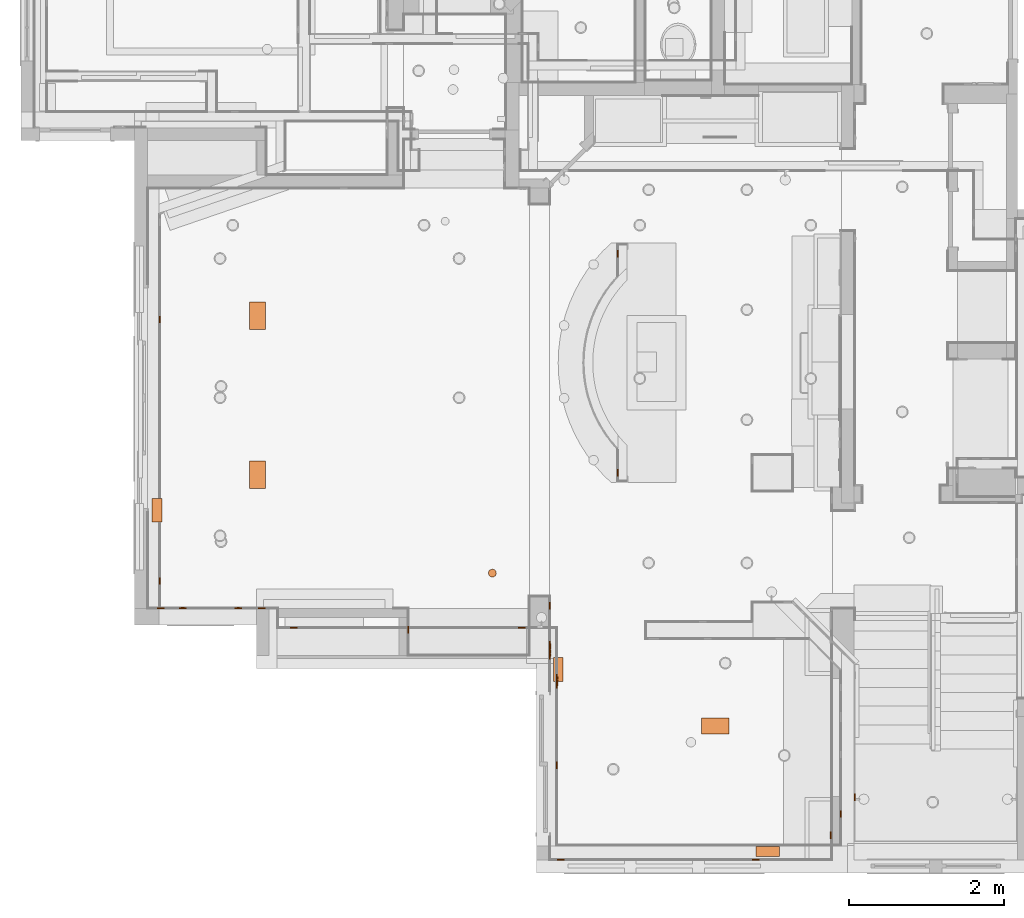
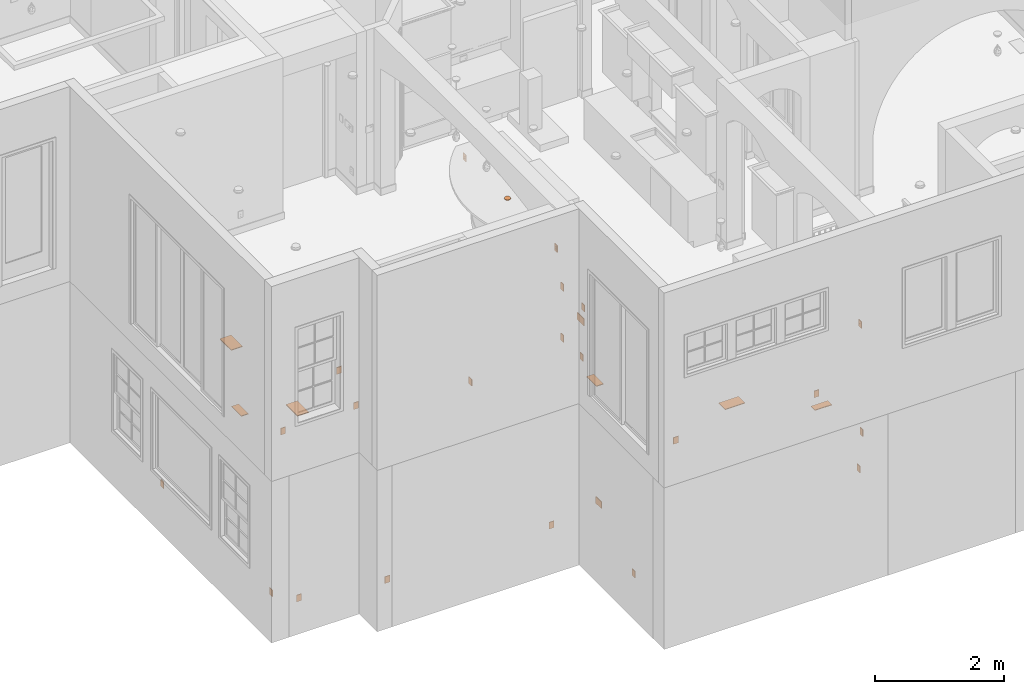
# One storey, part 63 of 81: 30 proxies.
"""IFC2X3 building model written with IfcOpenShell, lengths in feet."""

from ifc_helpers import new_model, entity, si_unit, converted_unit, derived_unit, direction, frame, frame_2d, origin, origin_2d_with_axis, place, context, subcontext, project, spatial, polyline, circle_curve, parameter, trimmed, segment, composite_curve, rectangle, circle, outline, extrude, source, transform, mapped, material, type_object, type_shapes, element, save


model = new_model("IFC2X3")

# Units and contexts
model_context = context("Model", 3, precision=0.0001, world=origin(), true_north=direction((6.12303176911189e-17, 1.0)))
body_context = subcontext(model_context, "Body", "Model", "MODEL_VIEW")
ifc_project = project(units=[converted_unit("LENGTHUNIT", "FOOT", entity("IfcRatioMeasure", 0.3048), si_unit("LENGTHUNIT", "METRE"), dimensions=[1, 0, 0, 0, 0, 0, 0]), converted_unit("AREAUNIT", "SQUARE FOOT", entity("IfcRatioMeasure", 0.09290304), si_unit("AREAUNIT", "SQUARE_METRE"), dimensions=[2, 0, 0, 0, 0, 0, 0]), converted_unit("VOLUMEUNIT", "CUBIC FOOT", entity("IfcRatioMeasure", 0.028316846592), si_unit("VOLUMEUNIT", "CUBIC_METRE"), dimensions=[3, 0, 0, 0, 0, 0, 0]), converted_unit("PLANEANGLEUNIT", "DEGREE", entity("IfcRatioMeasure", 0.0174532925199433), si_unit("PLANEANGLEUNIT", "RADIAN"), dimensions=[0, 0, 0, 0, 0, 0, 0]), si_unit("MASSUNIT", "GRAM", prefix="KILO"), derived_unit("MASSDENSITYUNIT", [(si_unit("MASSUNIT", "GRAM", prefix="KILO"), 1), (si_unit("LENGTHUNIT", "METRE"), -3)]), derived_unit("MOMENTOFINERTIAUNIT", [(si_unit("LENGTHUNIT", "METRE"), 4)]), si_unit("TIMEUNIT", "SECOND"), si_unit("FREQUENCYUNIT", "HERTZ"), si_unit("THERMODYNAMICTEMPERATUREUNIT", "DEGREE_CELSIUS"), derived_unit("THERMALTRANSMITTANCEUNIT", [(si_unit("MASSUNIT", "GRAM", prefix="KILO"), 1), (si_unit("THERMODYNAMICTEMPERATUREUNIT", "KELVIN"), -1), (si_unit("TIMEUNIT", "SECOND"), -3)]), derived_unit("VOLUMETRICFLOWRATEUNIT", [(si_unit("LENGTHUNIT", "METRE"), 3), (si_unit("TIMEUNIT", "SECOND"), -1)]), si_unit("ELECTRICCURRENTUNIT", "AMPERE"), si_unit("ELECTRICVOLTAGEUNIT", "VOLT"), si_unit("POWERUNIT", "WATT"), si_unit("FORCEUNIT", "NEWTON"), si_unit("ILLUMINANCEUNIT", "LUX"), si_unit("LUMINOUSFLUXUNIT", "LUMEN"), si_unit("LUMINOUSINTENSITYUNIT", "CANDELA"), derived_unit("USERDEFINED", [(si_unit("MASSUNIT", "GRAM", prefix="KILO"), -1), (si_unit("LENGTHUNIT", "METRE"), -2), (si_unit("TIMEUNIT", "SECOND"), 3), (si_unit("LUMINOUSFLUXUNIT", "LUMEN"), 1)]), derived_unit("LINEARVELOCITYUNIT", [(si_unit("LENGTHUNIT", "METRE"), 1), (si_unit("TIMEUNIT", "SECOND"), -1)]), si_unit("PRESSUREUNIT", "PASCAL"), derived_unit("USERDEFINED", [(si_unit("LENGTHUNIT", "METRE"), -2), (si_unit("MASSUNIT", "GRAM", prefix="KILO"), 1), (si_unit("TIMEUNIT", "SECOND"), -2)]), derived_unit("LINEARFORCEUNIT", [(si_unit("MASSUNIT", "GRAM", prefix="KILO"), 1), (si_unit("LENGTHUNIT", "METRE"), 1), (si_unit("TIMEUNIT", "SECOND"), -2), (si_unit("LENGTHUNIT", "METRE"), -1)]), derived_unit("PLANARFORCEUNIT", [(si_unit("MASSUNIT", "GRAM", prefix="KILO"), 1), (si_unit("LENGTHUNIT", "METRE"), 1), (si_unit("TIMEUNIT", "SECOND"), -2), (si_unit("LENGTHUNIT", "METRE"), -2)])], contexts=[model_context])

# Site, building, storey
site_placement = place(None, origin())
site = spatial("IfcSite", under=ifc_project, at=site_placement, Name="Default", CompositionType="ELEMENT")
building_placement = place(site_placement, origin())
building = spatial("IfcBuilding", under=site, at=building_placement, CompositionType="ELEMENT")
storey_placement = place(building_placement, origin())
storey = spatial("IfcBuildingStorey", under=building, at=storey_placement, Name="First floor", CompositionType="ELEMENT", Elevation=0.0)

# Proxies
ifc_material = material(Name="Default New Material")
building_element_proxy_type_1 = type_object("IfcBuildingElementProxyType", Name="Switch 4:Switch 4", PredefinedType="NOTDEFINED", material=ifc_material)
shared_shape_1 = source(origin(), body_context, "Body", "SweptSolid", [
    extrude(outline(composite_curve([segment(polyline([(-0.0309162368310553, -0.0465871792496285), (0.0309162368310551, -0.0465871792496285)]), True, "CONTINUOUS"), segment(trimmed(circle_curve(frame_2d((-0.000264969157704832, 0.0), x_axis=(-1.0, 0.0)), 0.056059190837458), [parameter(123.794740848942)], [parameter(236.205259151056)], True, "PARAMETER"), True, "CONTINUOUS"), segment(polyline([(0.0309162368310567, 0.0465871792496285), (-0.0309162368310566, 0.0465871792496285)]), True, "CONTINUOUS"), segment(trimmed(circle_curve(frame_2d((0.000264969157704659, 0.0), x_axis=(1.0, 0.0)), 0.056059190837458), [parameter(123.794740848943)], [parameter(236.205259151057)], True, "PARAMETER"), True, "CONTINUOUS")], self_intersect=False), holes=[polyline([(0.0141623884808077, 0.0279286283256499), (0.0261732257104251, 0.0279286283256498), (0.026173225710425, -0.00693584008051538), (0.0141623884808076, -0.00693584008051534), (0.0141623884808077, 0.0279286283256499)]), polyline([(-0.0152702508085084, 0.0250466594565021), (-0.0152702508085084, -0.00448340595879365), (-0.0278178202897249, -0.00448340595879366), (-0.0278178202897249, 0.0250466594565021), (-0.0152702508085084, 0.0250466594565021)]), composite_curve([segment(polyline([(-0.0120315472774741, -0.041319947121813), (-0.0120315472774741, -0.0300186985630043)]), True, "CONTINUOUS"), segment(trimmed(circle_curve(frame_2d((-0.000284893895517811, -0.0300186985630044), x_axis=(-1.0, 0.0)), 0.0117466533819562), [parameter(180.0)], [parameter(0.0)], True, "PARAMETER"), False, "CONTINUOUS"), segment(polyline([(0.0114617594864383, -0.0300186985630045), (0.0114617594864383, -0.0413199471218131)]), True, "CONTINUOUS"), segment(polyline([(0.0114617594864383, -0.0413199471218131), (-0.0120315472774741, -0.041319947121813)]), True, "CONTINUOUS")], self_intersect=False)]), frame((-0.0114927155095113, 0.0416666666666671, 0.27060332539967), z_axis=(0.0, 1.0, 0.0), x_axis=(-1.0, 0.0, 0.0)), (0.0, 0.0, 1.0), 0.00420900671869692),
    extrude(outline(composite_curve([segment(polyline([(-0.0307631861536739, -0.0463565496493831), (0.0307631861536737, -0.0463565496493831)]), True, "CONTINUOUS"), segment(trimmed(circle_curve(frame_2d((-0.000263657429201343, 0.0), x_axis=(-1.0, 0.0)), 0.0557816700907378), [parameter(123.794740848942)], [parameter(236.205259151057)], True, "PARAMETER"), True, "CONTINUOUS"), segment(polyline([(0.030763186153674, 0.0463565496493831), (-0.0307631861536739, 0.0463565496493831)]), True, "CONTINUOUS"), segment(trimmed(circle_curve(frame_2d((0.00026365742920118, 0.0), x_axis=(1.0, 0.0)), 0.0557816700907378), [parameter(123.794740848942)], [parameter(236.205259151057)], True, "PARAMETER"), True, "CONTINUOUS")], self_intersect=False), holes=[polyline([(0.0140922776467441, 0.0247228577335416), (0.026043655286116, 0.0247228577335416), (0.0260436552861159, -0.00472751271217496), (0.014092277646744, -0.00472751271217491), (0.0140922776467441, 0.0247228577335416)]), polyline([(-0.0151946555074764, 0.0249226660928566), (-0.0151946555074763, -0.0044612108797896), (-0.0276801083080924, -0.00446121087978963), (-0.0276801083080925, 0.0249226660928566), (-0.0151946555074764, 0.0249226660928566)]), composite_curve([segment(polyline([(-0.0119719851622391, -0.0411153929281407), (-0.011971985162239, -0.0298700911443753)]), True, "CONTINUOUS"), segment(trimmed(circle_curve(frame_2d((-0.000283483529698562, -0.0298700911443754), x_axis=(-1.0, 0.0)), 0.0116885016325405), [parameter(180.0)], [parameter(0.0)], True, "PARAMETER"), False, "CONTINUOUS"), segment(polyline([(0.0114050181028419, -0.0298700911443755), (0.0114050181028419, -0.0411153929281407)]), True, "CONTINUOUS"), segment(polyline([(0.0114050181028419, -0.0411153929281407), (-0.0119719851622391, -0.0411153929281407)]), True, "CONTINUOUS")], self_intersect=False)]), frame((-0.0114927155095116, 0.0416666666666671, 0.145832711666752), z_axis=(0.0, 1.0, 0.0), x_axis=(-1.0, 0.0, 0.0)), (0.0, 0.0, 1.0), 0.00420900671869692),
    extrude(rectangle(XDim=0.0416666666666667, YDim=0.291666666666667, at=frame_2d((0.0, 1.38777878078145e-17), x_axis=(1.0, 0.0))), frame((-0.0114927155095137, 0.0208333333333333, 0.0), z_axis=(0.0, 0.0, 1.0), x_axis=(0.0, -1.0, 0.0)), (0.0, 0.0, 1.0), 0.416666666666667),
])
type_shapes(building_element_proxy_type_1, [shared_shape_1])
for number, where, z_axis, x_axis, name in (
    (1, (-16.0, 23.4468406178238, 0.958335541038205), (0.0, 0.0, 1.0), (0.0, -1.0, 0.0), "Switch 4:Switch 4"),
    (2, (-16.0, 12.3635072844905, 0.958335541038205), (0.0, 0.0, 1.0), (0.0, -1.0, 0.0), "Switch 4:Switch 4"),
):
    element("IfcBuildingElementProxy", number, at=place(storey_placement, frame(where, z_axis=z_axis, x_axis=x_axis)), inside=storey, type_object=building_element_proxy_type_1, material=ifc_material, Name=name, ObjectType="Switch 4:Switch 4", context=body_context, shape_type="MappedRepresentation", body=[
        mapped(shared_shape_1, transform((0.0, 0.0, 0.0), scale=1.0)),
    ])
for number, where, name in (
    (3, (-14.9885072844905, 11.2083333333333, 0.958335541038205), "Switch 4:Switch 4"),
    (4, (-10.2801739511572, 10.3750577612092, 0.958335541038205), "Switch 4:Switch 4"),
    (5, (-0.61350728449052, 10.375, 0.958335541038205), "Switch 4:Switch 4"),
):
    element("IfcBuildingElementProxy", number, at=place(storey_placement, frame(where)), inside=storey, type_object=building_element_proxy_type_1, material=ifc_material, Name=name, ObjectType="Switch 4:Switch 4", context=body_context, shape_type="MappedRepresentation", body=[
        mapped(shared_shape_1, transform((0.0, 0.0, 0.0), scale=1.0)),
    ])
for number, where, z_axis, x_axis, name in (
    (6, (0.833333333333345, 4.55100728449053, 0.958335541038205), (0.0, 0.0, 1.0), (0.0, -1.0, 0.0), "Switch 4:Switch 4"),
    (7, (-5.45833333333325, 10.3010072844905, 11.6250022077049), (0.0, 0.0, 1.0), (0.0, -1.0, 0.0), "Switch 4:Switch 4"),
):
    element("IfcBuildingElementProxy", number, at=place(storey_placement, frame(where, z_axis=z_axis, x_axis=x_axis)), inside=storey, type_object=building_element_proxy_type_1, material=ifc_material, Name=name, ObjectType="Switch 4:Switch 4", context=body_context, shape_type="MappedRepresentation", body=[
        mapped(shared_shape_1, transform((0.0, 0.0, 0.0), scale=1.0)),
    ])
for number, where, name in (
    (8, (9.30315938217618, 0.54166666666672, 11.625), "Switch 4:Switch 4"),
    (9, (1.03232604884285, 0.541666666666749, 11.625), "Switch 4:Switch 4"),
):
    element("IfcBuildingElementProxy", number, at=place(storey_placement, frame(where)), inside=storey, type_object=building_element_proxy_type_1, material=ifc_material, Name=name, ObjectType="Switch 4:Switch 4", context=body_context, shape_type="MappedRepresentation", body=[
        mapped(shared_shape_1, transform((0.0, 0.0, 0.0), scale=1.0)),
    ])
for number, where, z_axis, x_axis, name in (
    (10, (0.541666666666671, 9.34267395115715, 11.625), (0.0, 0.0, 1.0), (0.0, -1.0, 0.0), "Switch 4:Switch 4"),
    (11, (3.45833333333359, 26.2614927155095, 12.7916666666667), (0.0, 0.0, 1.0), (0.0, 1.0, 0.0), "Switch 4:Switch 4"),
    (12, (3.45833333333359, 16.9698260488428, 12.7916666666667), (0.0, 0.0, 1.0), (0.0, 1.0, 0.0), "Switch 4:Switch 4"),
):
    element("IfcBuildingElementProxy", number, at=place(storey_placement, frame(where, z_axis=z_axis, x_axis=x_axis)), inside=storey, type_object=building_element_proxy_type_1, material=ifc_material, Name=name, ObjectType="Switch 4:Switch 4", context=body_context, shape_type="MappedRepresentation", body=[
        mapped(shared_shape_1, transform((0.0, 0.0, 0.0), scale=1.0)),
    ])
building_element_proxy_type_2 = type_object("IfcBuildingElementProxyType", Name="Switch 1:Switch 1", PredefinedType="NOTDEFINED", material=ifc_material)
shared_shape_2 = source(origin(), body_context, "Body", "SweptSolid", [
    extrude(rectangle(XDim=0.0416666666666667, YDim=0.291666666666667, at=frame_2d((1.73472347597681e-18, -1.38777878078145e-17), x_axis=(1.0, 0.0))), frame((0.0149704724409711, 0.0208333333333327, 0.0), z_axis=(0.0, 0.0, 1.0), x_axis=(0.0, 1.0, 0.0)), (0.0, 0.0, 1.0), 0.416666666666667),
])
type_shapes(building_element_proxy_type_2, [shared_shape_2])
for number, where, z_axis, x_axis, name in (
    (13, (12.9166655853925, 2.48502952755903, 4.54166666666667), (0.0, 0.0, 1.0), (0.0, 1.0, 0.0), "Switch 1:Switch 1"),
    (14, (13.4583322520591, 3.22330380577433, 6.16666666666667), (0.0, 0.0, 1.0), (0.0, -1.0, 0.0), "Switch 1:Switch 1"),
):
    element("IfcBuildingElementProxy", number, at=place(storey_placement, frame(where, z_axis=z_axis, x_axis=x_axis)), inside=storey, type_object=building_element_proxy_type_2, material=ifc_material, Name=name, ObjectType="Switch 1:Switch 1", context=body_context, shape_type="MappedRepresentation", body=[
        mapped(shared_shape_2, transform((0.0, 0.0, 0.0), scale=1.0)),
    ])
for number, where, name in (
    (15, (-11.660803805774, 11.2083333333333, 11.7500000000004), "Switch 1:Switch 1"),
    (16, (-15.952470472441, 11.2083333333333, 11.6666666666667), "Switch 1:Switch 1"),
):
    element("IfcBuildingElementProxy", number, at=place(storey_placement, frame(where)), inside=storey, type_object=building_element_proxy_type_2, material=ifc_material, Name=name, ObjectType="Switch 1:Switch 1", context=body_context, shape_type="MappedRepresentation", body=[
        mapped(shared_shape_2, transform((0.0, 0.0, 0.0), scale=1.0)),
    ])
for number, where, z_axis, x_axis, name in (
    (17, (0.541666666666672, 11.3483038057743, 11.625), (0.0, 0.0, 1.0), (0.0, -1.0, 0.0), "Switch 1:Switch 1"),
    (18, (0.541666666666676, 11.3483038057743, 14.7916666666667), (0.0, 0.0, 1.0), (0.0, -1.0, 0.0), "Switch 1:Switch 1"),
    (19, (0.541666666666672, 9.22330380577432, 14.7916666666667), (0.0, 0.0, 1.0), (0.0, -1.0, 0.0), "Switch 1:Switch 1"),
):
    element("IfcBuildingElementProxy", number, at=place(storey_placement, frame(where, z_axis=z_axis, x_axis=x_axis)), inside=storey, type_object=building_element_proxy_type_2, material=ifc_material, Name=name, ObjectType="Switch 1:Switch 1", context=body_context, shape_type="MappedRepresentation", body=[
        mapped(shared_shape_2, transform((0.0, 0.0, 0.0), scale=1.0)),
    ])
building_element_proxy_type_3 = type_object("IfcBuildingElementProxyType", Name="Ceiling Duct:Ceiling Duct", PredefinedType="NOTDEFINED", material=ifc_material)
shared_shape_3 = source(origin(), body_context, "Body", "SweptSolid", [
    extrude(rectangle(XDim=0.666666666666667, YDim=1.16666666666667, at=origin_2d_with_axis()), frame((0.583333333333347, -0.333333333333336, -0.0416666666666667), z_axis=(0.0, 0.0, 1.0), x_axis=(0.0, 1.0, 0.0)), (0.0, 0.0, 1.0), 0.0416666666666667),
])
type_shapes(building_element_proxy_type_3, [shared_shape_3])
for number, where, z_axis, x_axis, name in (
    (20, (-12.1666666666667, 23.0416666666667, 8.41666666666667), (0.0, 0.0, 1.0), (0.0, 1.0, 0.0), "Ceiling Duct:Ceiling Duct"),
    (21, (-12.1666666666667, 16.2916666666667, 8.41666666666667), (0.0, 0.0, 1.0), (0.0, 1.0, 0.0), "Ceiling Duct:Ceiling Duct"),
    (22, (8.16666666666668, 5.89583333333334, 8.41666666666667), (0.0, 0.0, 1.0), (-1.0, 0.0, 0.0), "Ceiling Duct:Ceiling Duct"),
):
    element("IfcBuildingElementProxy", number, at=place(storey_placement, frame(where, z_axis=z_axis, x_axis=x_axis)), inside=storey, type_object=building_element_proxy_type_3, material=ifc_material, Name=name, ObjectType="Ceiling Duct:Ceiling Duct", context=body_context, shape_type="MappedRepresentation", body=[
        mapped(shared_shape_3, transform((0.0, 0.0, 0.0), scale=1.0)),
    ])
building_element_proxy_type_4 = type_object("IfcBuildingElementProxyType", Name="Switch 22:Switch 22", PredefinedType="NOTDEFINED", material=ifc_material)
shared_shape_4 = source(origin(), body_context, "Body", "SweptSolid", [
    extrude(outline(polyline([(-0.0259922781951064, -0.0993451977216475), (-0.00568037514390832, -0.0993451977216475), (-0.00432436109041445, -0.021559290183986), (0.021153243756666, 0.109511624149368), (0.0148437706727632, 0.110738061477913), (-0.0259922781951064, -0.0993451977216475)])), frame((0.216904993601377, 0.0482254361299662, 0.203805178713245), z_axis=(1.0, 0.0, 0.0), x_axis=(0.0, 0.981627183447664, 0.190808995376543)), (0.0, 0.0, 1.0), 0.104166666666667),
    extrude(outline(polyline([(-0.0259922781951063, -0.0993451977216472), (-0.00568037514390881, -0.0993451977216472), (-0.00432436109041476, -0.0215592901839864), (0.0211532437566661, 0.109511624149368), (0.0148437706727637, 0.110738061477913), (-0.0259922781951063, -0.0993451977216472)])), frame((0.0752383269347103, 0.0482254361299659, 0.203805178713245), z_axis=(1.0, 0.0, 0.0), x_axis=(0.0, 0.981627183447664, 0.190808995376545)), (0.0, 0.0, 1.0), 0.104166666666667),
    extrude(outline(polyline([(-0.102069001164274, -0.00649102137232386), (0.111946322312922, -0.00649102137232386), (0.111946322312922, -6.34558053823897e-05), (-0.0235644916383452, -6.34558053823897e-05), (-0.0982591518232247, 0.0131089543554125), (-0.102069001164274, -0.00649102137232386)])), frame((-0.0664283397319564, 0.0481576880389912, 0.2120154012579), z_axis=(1.0, 0.0, 0.0), x_axis=(0.0, 0.0, -1.0)), (0.0, 0.0, 1.0), 0.104166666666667),
    extrude(outline(polyline([(-0.102069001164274, -0.00649102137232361), (0.111946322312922, -0.00649102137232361), (0.111946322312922, -6.34558053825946e-05), (-0.0235644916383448, -6.34558053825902e-05), (-0.0982591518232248, 0.0131089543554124), (-0.102069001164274, -0.00649102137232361)])), frame((-0.208095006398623, 0.048157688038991, 0.2120154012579), z_axis=(1.0, 0.0, 0.0), x_axis=(0.0, 0.0, -1.0)), (0.0, 0.0, 1.0), 0.104166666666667),
    extrude(rectangle(XDim=0.0416666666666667, YDim=0.708333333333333, at=origin_2d_with_axis()), frame((0.0564883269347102, 0.0208333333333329, 0.0), z_axis=(0.0, 0.0, 1.0), x_axis=(0.0, -1.0, 0.0)), (0.0, 0.0, 1.0), 0.416666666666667),
])
type_shapes(building_element_proxy_type_4, [shared_shape_4])
proxy_1_placement = place(storey_placement, frame((0.54166666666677, 9.51482166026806, 13.9166666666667), z_axis=(0.0, 0.0, 1.0), x_axis=(0.0, -1.0, 0.0)))
element("IfcBuildingElementProxy", 23, at=proxy_1_placement, inside=storey, type_object=building_element_proxy_type_4, material=ifc_material, Name="Switch 22:Switch 22", ObjectType="Switch 22:Switch 22", context=body_context, shape_type="MappedRepresentation", body=[
    mapped(shared_shape_4, transform((0.0, 0.0, 0.0), scale=1.0)),
])
building_element_proxy_type_5 = type_object("IfcBuildingElementProxyType", Name="Switch 20:Switch 20", PredefinedType="NOTDEFINED", material=ifc_material)
shared_shape_5 = source(origin(), body_context, "Body", "SweptSolid", [
    extrude(outline(polyline([(-0.0276854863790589, -0.104315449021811), (-0.00419099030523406, -0.104315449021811), (-0.00254373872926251, -0.00982309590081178), (0.02047393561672, 0.10859257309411), (0.0139462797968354, 0.109861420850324), (-0.0276854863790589, -0.104315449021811)])), frame((0.0802350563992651, 0.0489391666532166, 0.217000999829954), z_axis=(1.0, 0.0, 0.0), x_axis=(0.0, 0.981627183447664, 0.190808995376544)), (0.0, 0.0, 1.0), 0.104166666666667),
    extrude(outline(polyline([(-0.107630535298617, -0.00726408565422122), (0.110555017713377, -0.00726408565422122), (0.110555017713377, -0.000614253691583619), (-0.010323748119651, -0.000614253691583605), (-0.103155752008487, 0.0157566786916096), (-0.107630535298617, -0.00726408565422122)])), frame((-0.0655982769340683, 0.0489307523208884, 0.218661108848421), z_axis=(1.0, 0.0, 0.0), x_axis=(0.0, 0.0, -1.0)), (0.0, 0.0, 1.0), 0.104166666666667),
    extrude(outline(polyline([(-0.107630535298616, -0.00726408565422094), (0.110555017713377, -0.00726408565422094), (0.110555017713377, -0.000614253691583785), (-0.0103237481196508, -0.000614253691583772), (-0.103155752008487, 0.0157566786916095), (-0.107630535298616, -0.00726408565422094)])), frame((-0.211431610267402, 0.0489307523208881, 0.218661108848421), z_axis=(1.0, 0.0, 0.0), x_axis=(0.0, 0.0, -1.0)), (0.0, 0.0, 1.0), 0.104166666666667),
    extrude(rectangle(XDim=0.0416666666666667, YDim=0.583333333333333, at=origin_2d_with_axis()), frame((-0.013514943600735, 0.020833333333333, 0.0), z_axis=(0.0, 0.0, 1.0), x_axis=(0.0, -1.0, 0.0)), (0.0, 0.0, 1.0), 0.416666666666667),
])
type_shapes(building_element_proxy_type_5, [shared_shape_5])
proxy_2_placement = place(storey_placement, frame((0.833391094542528, 8.11148505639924, 3.20833333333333), z_axis=(0.0, 0.0, 1.0), x_axis=(0.0, -1.0, 0.0)))
element("IfcBuildingElementProxy", 24, at=proxy_2_placement, inside=storey, type_object=building_element_proxy_type_5, material=ifc_material, Name="Switch 20:Switch 20", ObjectType="Switch 20:Switch 20", context=body_context, shape_type="MappedRepresentation", body=[
    mapped(shared_shape_5, transform((0.0, 0.0, 0.0), scale=1.0)),
])
building_element_proxy_type_6 = type_object("IfcBuildingElementProxyType", Name="Switch 3:Switch 3", PredefinedType="NOTDEFINED", material=ifc_material)
shared_shape_6 = source(origin(), body_context, "Body", "SweptSolid", [
    extrude(outline(polyline([(-0.104054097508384, -0.005864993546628), (0.112106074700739, -0.005864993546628), (0.112106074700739, -0.000652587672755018), (-0.0212705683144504, -0.000652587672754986), (-0.0988874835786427, 0.0130351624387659), (-0.104054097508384, -0.005864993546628)])), frame((-0.0648037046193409, 0.0475316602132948, 0.212359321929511), z_axis=(1.0, 0.0, 0.0), x_axis=(0.0, 0.0, -1.0)), (0.0, 0.0, 1.0), 0.104166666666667),
    extrude(rectangle(XDim=0.0416666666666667, YDim=0.291666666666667, at=frame_2d((0.0, -1.38777878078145e-17), x_axis=(1.0, 0.0))), frame((-0.012720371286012, 0.020833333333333, 0.0), z_axis=(0.0, 0.0, 1.0), x_axis=(0.0, -1.0, 0.0)), (0.0, 0.0, 1.0), 0.416666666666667),
])
type_shapes(building_element_proxy_type_6, [shared_shape_6])
proxy_3_placement = place(storey_placement, frame((-12.6331129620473, 11.2083333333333, 14.2916666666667)))
element("IfcBuildingElementProxy", 25, at=proxy_3_placement, inside=storey, type_object=building_element_proxy_type_6, material=ifc_material, Name="Switch 3:Switch 3", ObjectType="Switch 3:Switch 3", context=body_context, shape_type="MappedRepresentation", body=[
    mapped(shared_shape_6, transform((0.0, 0.0, 0.0), scale=1.0)),
])
building_element_proxy_type_7 = type_object("IfcBuildingElementProxyType", Name="Switch 18:Switch 18", PredefinedType="NOTDEFINED", material=ifc_material)
shared_shape_7 = source(origin(), body_context, "Body", "SweptSolid", [
    extrude(outline(composite_curve([segment(polyline([(-0.0307631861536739, -0.0463565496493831), (0.0307631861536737, -0.0463565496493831)]), True, "CONTINUOUS"), segment(trimmed(circle_curve(frame_2d((-0.000263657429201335, 0.0), x_axis=(-1.0, 0.0)), 0.0557816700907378), [parameter(123.794740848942)], [parameter(236.205259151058)], True, "PARAMETER"), True, "CONTINUOUS"), segment(polyline([(0.030763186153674, 0.0463565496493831), (-0.0307631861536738, 0.0463565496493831)]), True, "CONTINUOUS"), segment(trimmed(circle_curve(frame_2d((0.000263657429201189, 0.0), x_axis=(1.0, 0.0)), 0.0557816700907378), [parameter(123.794740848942)], [parameter(236.205259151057)], True, "PARAMETER"), True, "CONTINUOUS")], self_intersect=False), holes=[polyline([(0.0140922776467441, 0.0247228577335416), (0.026043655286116, 0.0247228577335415), (0.0260436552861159, -0.00472751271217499), (0.014092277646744, -0.00472751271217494), (0.0140922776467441, 0.0247228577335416)]), polyline([(-0.0151946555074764, 0.0249226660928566), (-0.0151946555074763, -0.00446121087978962), (-0.0276801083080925, -0.00446121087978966), (-0.0276801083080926, 0.0249226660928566), (-0.0151946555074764, 0.0249226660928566)]), composite_curve([segment(polyline([(-0.0119719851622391, -0.0411153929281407), (-0.0119719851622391, -0.0298700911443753)]), True, "CONTINUOUS"), segment(trimmed(circle_curve(frame_2d((-0.000283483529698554, -0.0298700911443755), x_axis=(-1.0, 0.0)), 0.0116885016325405), [parameter(180.0)], [parameter(0.0)], True, "PARAMETER"), False, "CONTINUOUS"), segment(polyline([(0.011405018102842, -0.0298700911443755), (0.0114050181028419, -0.0411153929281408)]), True, "CONTINUOUS"), segment(polyline([(0.0114050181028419, -0.0411153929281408), (-0.0119719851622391, -0.0411153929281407)]), True, "CONTINUOUS")], self_intersect=False)]), frame((-0.0114927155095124, 0.0416666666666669, 0.208333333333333), z_axis=(0.0, 1.0, 0.0), x_axis=(-1.0, 0.0, 0.0)), (0.0, 0.0, 1.0), 0.00420900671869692),
    extrude(rectangle(XDim=0.0416666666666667, YDim=0.291666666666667, at=frame_2d((0.0, 1.38777878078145e-17), x_axis=(1.0, 0.0))), frame((-0.0114927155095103, 0.0208333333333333, 0.0), z_axis=(0.0, 0.0, 1.0), x_axis=(0.0, -1.0, 0.0)), (0.0, 0.0, 1.0), 0.416666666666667),
])
type_shapes(building_element_proxy_type_7, [shared_shape_7])
proxy_4_placement = place(storey_placement, frame((12.5, 1.61565938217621, 14.2083333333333), z_axis=(0.0, 0.0, 1.0), x_axis=(0.0, 1.0, 0.0)))
element("IfcBuildingElementProxy", 26, at=proxy_4_placement, inside=storey, type_object=building_element_proxy_type_7, material=ifc_material, Name="Switch 18:Switch 18", ObjectType="Switch 18:Switch 18", context=body_context, shape_type="MappedRepresentation", body=[
    mapped(shared_shape_7, transform((0.0, 0.0, 0.0), scale=1.0)),
])
building_element_proxy_type_8 = type_object("IfcBuildingElementProxyType", Name="Specialty Equipment_4:Specialty Equipment_4", PredefinedType="NOTDEFINED", material=ifc_material)
shared_shape_8 = source(origin(), body_context, "Body", "SweptSolid", [
    extrude(circle(Radius=0.166666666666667, at=frame_2d((-1.34040111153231e-17, -2.69257429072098e-16), x_axis=(1.0, 0.0))), frame((0.0, 0.0, -0.0416666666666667)), (0.0, 0.0, 1.0), 0.0416666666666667),
])
type_shapes(building_element_proxy_type_8, [shared_shape_8])
proxy_5_placement = place(storey_placement, frame((-1.87499999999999, 12.7083333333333, 20.5416666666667)))
element("IfcBuildingElementProxy", 27, at=proxy_5_placement, inside=storey, type_object=building_element_proxy_type_8, material=ifc_material, Name="Specialty Equipment_4:Specialty Equipment_4", ObjectType="Specialty Equipment_4:Specialty Equipment_4", context=body_context, shape_type="MappedRepresentation", body=[
    mapped(shared_shape_8, transform((0.0, 0.0, 0.0), scale=1.0)),
])
building_element_proxy_type_9 = type_object("IfcBuildingElementProxyType", Name="Floor Duct:Floor Duct", PredefinedType="NOTDEFINED", material=ifc_material)
shared_shape_9 = source(origin(), body_context, "Body", "SweptSolid", [
    extrude(rectangle(XDim=0.999999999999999, YDim=0.416666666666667, at=origin_2d_with_axis()), frame((0.0, 0.0, 0.0), z_axis=(0.0, 0.0, 1.0), x_axis=(-1.0, 0.0, 0.0)), (0.0, 0.0, 1.0), 0.0416666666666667),
])
type_shapes(building_element_proxy_type_9, [shared_shape_9])
proxy_6_placement = place(storey_placement, frame((9.79166666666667, 0.916666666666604, 10.6666666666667)))
element("IfcBuildingElementProxy", 28, at=proxy_6_placement, inside=storey, type_object=building_element_proxy_type_9, material=ifc_material, Name="Floor Duct:Floor Duct", ObjectType="Floor Duct:Floor Duct", context=body_context, shape_type="MappedRepresentation", body=[
    mapped(shared_shape_9, transform((0.0, 0.0, 0.0), scale=1.0)),
])
proxy_7_placement = place(storey_placement, frame((0.916666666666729, 8.625, 10.6666666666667), z_axis=(0.0, 0.0, 1.0), x_axis=(0.0, 1.0, 0.0)))
element("IfcBuildingElementProxy", 29, at=proxy_7_placement, inside=storey, type_object=building_element_proxy_type_9, material=ifc_material, Name="Floor Duct:Floor Duct", ObjectType="Floor Duct:Floor Duct", context=body_context, shape_type="MappedRepresentation", body=[
    mapped(shared_shape_9, transform((0.0, 0.0, 0.0), scale=1.0)),
])
building_element_proxy_type_10 = type_object("IfcBuildingElementProxyType", Name="Generic_03:Generic_03", PredefinedType="NOTDEFINED", material=ifc_material)
shared_shape_10 = source(origin(), body_context, "Body", "SweptSolid", [
    extrude(rectangle(XDim=0.999999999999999, YDim=0.416666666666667, at=origin_2d_with_axis()), frame((0.0, 0.0, 0.0), z_axis=(0.0, 0.0, 1.0), x_axis=(-1.0, 0.0, 0.0)), (0.0, 0.0, 1.0), 0.0416666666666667),
])
type_shapes(building_element_proxy_type_10, [shared_shape_10])
proxy_8_placement = place(storey_placement, frame((-16.0833333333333, 15.375, 10.6666666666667), z_axis=(0.0, 0.0, 1.0), x_axis=(0.0, 1.0, 0.0)))
element("IfcBuildingElementProxy", 30, at=proxy_8_placement, inside=storey, type_object=building_element_proxy_type_10, material=ifc_material, Name="Generic_03:Generic_03", ObjectType="Generic_03:Generic_03", context=body_context, shape_type="MappedRepresentation", body=[
    mapped(shared_shape_10, transform((0.0, 0.0, 0.0), scale=1.0)),
])

save(model, "model.ifc")
